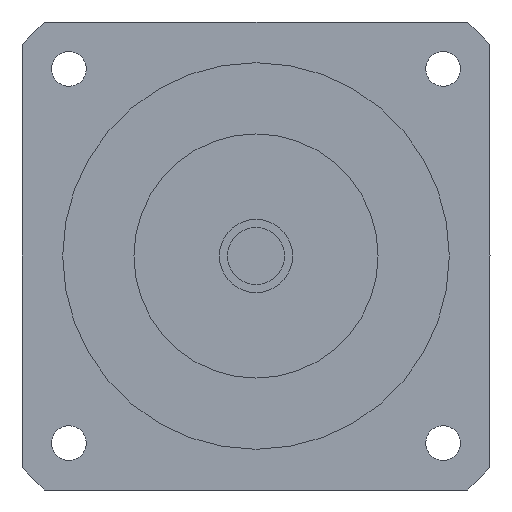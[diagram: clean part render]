
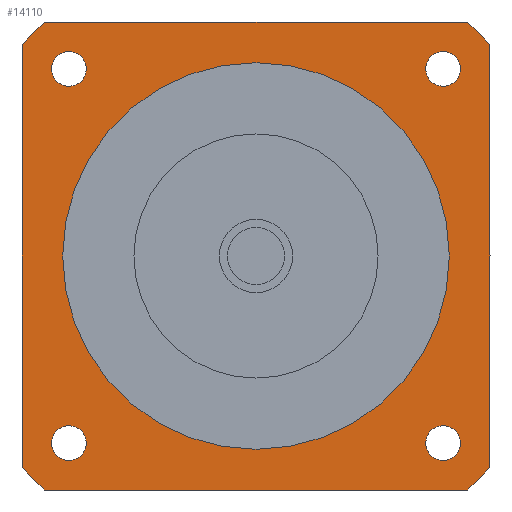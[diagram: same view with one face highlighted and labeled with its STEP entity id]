
A CAD part, left-side view. The second image highlights one B-rep face of the part: STEP entity #14110.
In plain terms, the highlighted planar face has unit normal (-1, 0, 0) as drawn and (0, 0, -1) by its records, which use the part's own axes.
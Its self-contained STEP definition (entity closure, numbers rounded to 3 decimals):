
#11300=CARTESIAN_POINT('',(-51.962,57.5,-47.4));
#11310=VERTEX_POINT('',#11300);
#11340=CARTESIAN_POINT('',(-57.5,57.5,-47.4));
#11350=DIRECTION('',(1.,0.,0.));
#11360=VECTOR('',#11350,1000.);
#11370=LINE('',#11340,#11360);
#11380=CARTESIAN_POINT('',(51.962,57.5,-47.4));
#11390=VERTEX_POINT('',#11380);
#11400=EDGE_CURVE('',#11310,#11390,#11370,.T.);
#11630=CARTESIAN_POINT('',(-57.5,51.962,-47.4));
#11640=VERTEX_POINT('',#11630);
#11670=CARTESIAN_POINT('',(0.,0.,
-47.4));
#11680=DIRECTION('',(0.,0.,-1.));
#11690=DIRECTION('',(1.,0.,0.));
#11700=AXIS2_PLACEMENT_3D('',#11670,#11680,#11690);
#11710=CIRCLE('',#11700,77.5);
#11720=EDGE_CURVE('',#11640,#11310,#11710,.T.);
#11860=CARTESIAN_POINT('',(-51.962,-57.5,-47.4));
#11870=VERTEX_POINT('',#11860);
#11900=CARTESIAN_POINT('',(0.,0.,
-47.4));
#11910=DIRECTION('',(0.,0.,-1.));
#11920=DIRECTION('',(1.,0.,0.));
#11930=AXIS2_PLACEMENT_3D('',#11900,#11910,#11920);
#11940=CIRCLE('',#11930,77.5);
#11950=CARTESIAN_POINT('',(-57.5,-51.962,-47.4));
#11960=VERTEX_POINT('',#11950);
#11970=EDGE_CURVE('',#11870,#11960,#11940,.T.);
#12180=CARTESIAN_POINT('',(51.962,-57.5,-47.4));
#12190=VERTEX_POINT('',#12180);
#12220=CARTESIAN_POINT('',(57.5,-57.5,-47.4));
#12230=DIRECTION('',(-1.,0.,0.));
#12240=VECTOR('',#12230,1000.);
#12250=LINE('',#12220,#12240);
#12260=EDGE_CURVE('',#12190,#11870,#12250,.T.);
#12390=CARTESIAN_POINT('',(-57.5,-57.5,-47.4));
#12400=DIRECTION('',(0.,1.,0.));
#12410=VECTOR('',#12400,1000.);
#12420=LINE('',#12390,#12410);
#12430=EDGE_CURVE('',#11960,#11640,#12420,.T.);
#12560=CARTESIAN_POINT('',(0.,0.,
-47.4));
#12570=DIRECTION('',(0.,0.,-1.));
#12580=DIRECTION('',(1.,0.,0.));
#12590=AXIS2_PLACEMENT_3D('',#12560,#12570,#12580);
#12600=CIRCLE('',#12590,77.5);
#12610=CARTESIAN_POINT('',(57.5,51.962,-47.4));
#12620=VERTEX_POINT('',#12610);
#12630=EDGE_CURVE('',#11390,#12620,#12600,.T.);
#12840=CARTESIAN_POINT('',(57.5,-51.962,-47.4));
#12850=VERTEX_POINT('',#12840);
#12880=CARTESIAN_POINT('',(0.,0.,
-47.4));
#12890=DIRECTION('',(0.,0.,-1.));
#12900=DIRECTION('',(1.,0.,0.));
#12910=AXIS2_PLACEMENT_3D('',#12880,#12890,#12900);
#12920=CIRCLE('',#12910,77.5);
#12930=EDGE_CURVE('',#12850,#12190,#12920,.T.);
#13060=CARTESIAN_POINT('',(57.5,57.5,-47.4));
#13070=DIRECTION('',(0.,-1.,0.));
#13080=VECTOR('',#13070,1000.);
#13090=LINE('',#13060,#13080);
#13100=EDGE_CURVE('',#12620,#12850,#13090,.T.);
#13170=CARTESIAN_POINT('',(57.5,57.5,-47.4));
#13180=DIRECTION('',(0.,0.,-1.));
#13190=DIRECTION('',(1.,0.,0.));
#13200=AXIS2_PLACEMENT_3D('',#13170,#13180,#13190);
#13210=PLANE('',#13200);
#13220=CARTESIAN_POINT('',(-45.962,-45.962,-47.4));
#13230=DIRECTION('',(0.,0.,-1.));
#13240=DIRECTION('',(0.,-1.,0.));
#13250=AXIS2_PLACEMENT_3D('',#13220,#13230,#13240);
#13260=CIRCLE('',#13250,4.25);
#13270=CARTESIAN_POINT('',(-45.962,-50.212,-47.4));
#13280=VERTEX_POINT('',#13270);
#13290=CARTESIAN_POINT('',(-45.962,-41.712,-47.4));
#13300=VERTEX_POINT('',#13290);
#13310=EDGE_CURVE('',#13280,#13300,#13260,.T.);
#13320=ORIENTED_EDGE('',*,*,#13310,.F.);
#13330=EDGE_CURVE('',#13300,#13280,#13260,.T.);
#13340=ORIENTED_EDGE('',*,*,#13330,.F.);
#13350=EDGE_LOOP('',(#13340,#13320));
#13360=FACE_BOUND('',#13350,.T.);
#13370=CARTESIAN_POINT('',(-45.962,45.962,-47.4));
#13380=DIRECTION('',(0.,0.,-1.));
#13390=DIRECTION('',(-1.,0.,0.));
#13400=AXIS2_PLACEMENT_3D('',#13370,#13380,#13390);
#13410=CIRCLE('',#13400,4.25);
#13420=CARTESIAN_POINT('',(-50.212,45.962,-47.4));
#13430=VERTEX_POINT('',#13420);
#13440=CARTESIAN_POINT('',(-41.712,45.962,-47.4));
#13450=VERTEX_POINT('',#13440);
#13460=EDGE_CURVE('',#13430,#13450,#13410,.T.);
#13470=ORIENTED_EDGE('',*,*,#13460,.F.);
#13480=EDGE_CURVE('',#13450,#13430,#13410,.T.);
#13490=ORIENTED_EDGE('',*,*,#13480,.F.);
#13500=EDGE_LOOP('',(#13490,#13470));
#13510=FACE_BOUND('',#13500,.T.);
#13520=CARTESIAN_POINT('',(45.962,45.962,-47.4));
#13530=DIRECTION('',(0.,0.,-1.));
#13540=DIRECTION('',(0.,1.,0.));
#13550=AXIS2_PLACEMENT_3D('',#13520,#13530,#13540);
#13560=CIRCLE('',#13550,4.25);
#13570=CARTESIAN_POINT('',(45.962,50.212,-47.4));
#13580=VERTEX_POINT('',#13570);
#13590=CARTESIAN_POINT('',(45.962,41.712,-47.4));
#13600=VERTEX_POINT('',#13590);
#13610=EDGE_CURVE('',#13580,#13600,#13560,.T.);
#13620=ORIENTED_EDGE('',*,*,#13610,.F.);
#13630=EDGE_CURVE('',#13600,#13580,#13560,.T.);
#13640=ORIENTED_EDGE('',*,*,#13630,.F.);
#13650=EDGE_LOOP('',(#13640,#13620));
#13660=FACE_BOUND('',#13650,.T.);
#13670=CARTESIAN_POINT('',(0.,0.,
-47.4));
#13680=DIRECTION('',(0.,0.,1.));
#13690=DIRECTION('',(0.,1.,0.));
#13700=AXIS2_PLACEMENT_3D('',#13670,#13680,#13690);
#13710=CIRCLE('',#13700,47.5);
#13720=CARTESIAN_POINT('',(-47.5,0.,-47.4));
#13730=VERTEX_POINT('',#13720);
#13740=CARTESIAN_POINT('',(47.5,0.,-47.4));
#13750=VERTEX_POINT('',#13740);
#13760=EDGE_CURVE('',#13730,#13750,#13710,.T.);
#13770=ORIENTED_EDGE('',*,*,#13760,.T.);
#13780=CARTESIAN_POINT('',(0.,47.5,-47.4));
#13790=VERTEX_POINT('',#13780);
#13800=EDGE_CURVE('',#13790,#13730,#13710,.T.);
#13810=ORIENTED_EDGE('',*,*,#13800,.T.);
#13820=EDGE_CURVE('',#13750,#13790,#13710,.T.);
#13830=ORIENTED_EDGE('',*,*,#13820,.T.);
#13840=EDGE_LOOP('',(#13830,#13810,#13770));
#13850=FACE_BOUND('',#13840,.T.);
#13860=ORIENTED_EDGE('',*,*,#11400,.T.);
#13870=ORIENTED_EDGE('',*,*,#11720,.T.);
#13880=ORIENTED_EDGE('',*,*,#12430,.T.);
#13890=ORIENTED_EDGE('',*,*,#11970,.T.);
#13900=ORIENTED_EDGE('',*,*,#12260,.T.);
#13910=ORIENTED_EDGE('',*,*,#12930,.T.);
#13920=ORIENTED_EDGE('',*,*,#13100,.T.);
#13930=ORIENTED_EDGE('',*,*,#12630,.T.);
#13940=EDGE_LOOP('',(#13930,#13920,#13910,#13900,#13890,#13880,#13870,
#13860));
#13950=FACE_OUTER_BOUND('',#13940,.T.);
#13960=CARTESIAN_POINT('',(45.962,-45.962,-47.4));
#13970=DIRECTION('',(0.,0.,-1.));
#13980=DIRECTION('',(1.,0.,0.));
#13990=AXIS2_PLACEMENT_3D('',#13960,#13970,#13980);
#14000=CIRCLE('',#13990,4.25);
#14010=CARTESIAN_POINT('',(50.212,-45.962,-47.4));
#14020=VERTEX_POINT('',#14010);
#14030=CARTESIAN_POINT('',(41.712,-45.962,-47.4));
#14040=VERTEX_POINT('',#14030);
#14050=EDGE_CURVE('',#14020,#14040,#14000,.T.);
#14060=ORIENTED_EDGE('',*,*,#14050,.F.);
#14070=EDGE_CURVE('',#14040,#14020,#14000,.T.);
#14080=ORIENTED_EDGE('',*,*,#14070,.F.);
#14090=EDGE_LOOP('',(#14080,#14060));
#14100=FACE_BOUND('',#14090,.T.);
#14110=ADVANCED_FACE('',(#13360,#13510,#13660,#13850,#13950,#14100),
#13210,.T.);
